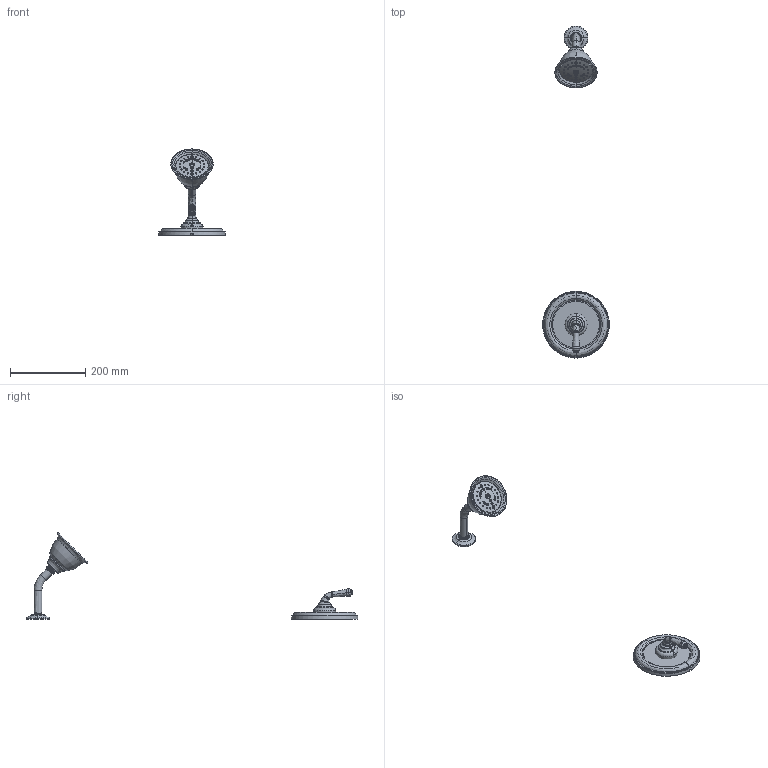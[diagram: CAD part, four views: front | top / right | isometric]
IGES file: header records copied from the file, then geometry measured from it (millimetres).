
Start section:  PTC IGES file: sku_t2444.igs
Global section: file name: sku_t2444.igs; native system: Pro/ENGINEER by Parametric Technology Corporation; preprocessor: 2006460; author: 9dutterb; organization: Unknown; date: 20071106.152047; units: inch
Bounding box: 177.38 x 882.39 x 229.14 mm (x, y, z)
Surface area: 183750.8 mm2 (no closed solid volume)
Topology: 0 solids, 0 shells, 337 faces, 1862 edges, 1859 vertices
Faces by surface type: revolution 195, bspline 142
